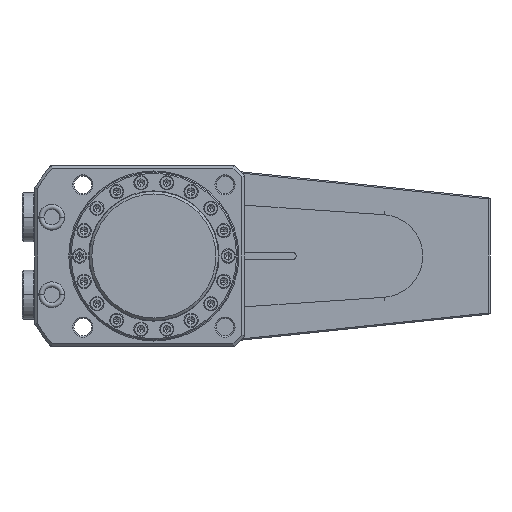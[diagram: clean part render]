
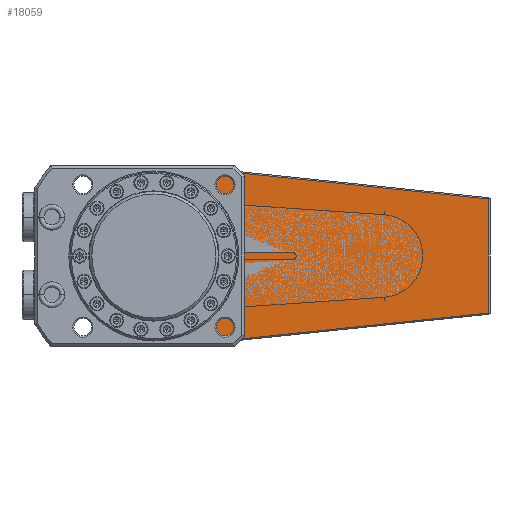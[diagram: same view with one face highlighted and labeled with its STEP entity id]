
A CAD part, front view. The second image highlights one B-rep face of the part: STEP entity #18059.
In plain terms, the highlighted planar face has unit normal (0, -1, 0).
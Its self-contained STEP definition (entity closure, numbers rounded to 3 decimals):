
#13941=DIRECTION('',(1.,0.,0.));
#13942=VECTOR('',#13941,18.844);
#13943=CARTESIAN_POINT('',(-34.5,-14.5,1.5));
#13944=LINE('',#13943,#13942);
#13945=DIRECTION('',(0.,0.,-1.));
#13946=VECTOR('',#13945,19.5);
#13947=CARTESIAN_POINT('',(-34.5,-14.5,21.));
#13948=LINE('',#13947,#13946);
#13949=DIRECTION('',(-0.707,0.,-0.707));
#13950=VECTOR('',#13949,1.414);
#13951=CARTESIAN_POINT('',(-33.5,-14.5,22.));
#13952=LINE('',#13951,#13950);
#13953=DIRECTION('',(-1.,0.,0.));
#13954=VECTOR('',#13953,29.);
#13955=CARTESIAN_POINT('',(-4.5,-14.5,22.));
#13956=LINE('',#13955,#13954);
#13957=DIRECTION('',(0.,0.,-1.));
#13958=VECTOR('',#13957,11.5);
#13959=CARTESIAN_POINT('',(-4.5,-14.5,33.5));
#13960=LINE('',#13959,#13958);
#13961=DIRECTION('',(-1.,0.,0.));
#13962=VECTOR('',#13961,24.474);
#13963=CARTESIAN_POINT('',(19.974,-14.5,33.5));
#13964=LINE('',#13963,#13962);
#13965=DIRECTION('',(-0.995,0.,0.104));
#13966=VECTOR('',#13965,110.123);
#13967=CARTESIAN_POINT('',(129.5,-14.5,22.05));
#13968=LINE('',#13967,#13966);
#13969=DIRECTION('',(0.,0.,1.));
#13970=VECTOR('',#13969,44.099);
#13971=CARTESIAN_POINT('',(129.5,-14.5,-22.05));
#13972=LINE('',#13971,#13970);
#13973=DIRECTION('',(0.995,0.,0.104));
#13974=VECTOR('',#13973,110.123);
#13975=CARTESIAN_POINT('',(19.974,-14.5,-33.5));
#13976=LINE('',#13975,#13974);
#13977=DIRECTION('',(1.,0.,0.));
#13978=VECTOR('',#13977,24.474);
#13979=CARTESIAN_POINT('',(-4.5,-14.5,-33.5));
#13980=LINE('',#13979,#13978);
#13981=DIRECTION('',(0.,0.,-1.));
#13982=VECTOR('',#13981,11.5);
#13983=CARTESIAN_POINT('',(-4.5,-14.5,-22.));
#13984=LINE('',#13983,#13982);
#13985=DIRECTION('',(1.,0.,0.));
#13986=VECTOR('',#13985,29.);
#13987=CARTESIAN_POINT('',(-33.5,-14.5,-22.));
#13988=LINE('',#13987,#13986);
#13989=DIRECTION('',(0.707,0.,-0.707));
#13990=VECTOR('',#13989,1.414);
#13991=CARTESIAN_POINT('',(-34.5,-14.5,-21.));
#13992=LINE('',#13991,#13990);
#13993=DIRECTION('',(0.,0.,-1.));
#13994=VECTOR('',#13993,19.5);
#13995=CARTESIAN_POINT('',(-34.5,-14.5,-1.5));
#13996=LINE('',#13995,#13994);
#13997=DIRECTION('',(1.,0.,0.));
#13998=VECTOR('',#13997,18.844);
#13999=CARTESIAN_POINT('',(-34.5,-14.5,-1.5));
#14000=LINE('',#13999,#13998);
#14006=CARTESIAN_POINT('',(0.,-14.5,0.));
#14007=DIRECTION('',(0.,1.,0.));
#14008=DIRECTION('',(-0.995,0.,0.095));
#14009=AXIS2_PLACEMENT_3D('',#14006,#14007,#14008);
#14113=CARTESIAN_POINT('',(-15.656,-14.5,
-1.5));
#14293=CARTESIAN_POINT('',(-15.656,-14.5,
1.5));
#17675=CARTESIAN_POINT('',(-33.5,-14.5,22.));
#17677=VERTEX_POINT('',#17675);
#17681=CARTESIAN_POINT('',(-4.5,-14.5,22.));
#17682=VERTEX_POINT('',#17681);
#17687=CARTESIAN_POINT('',(129.5,-14.5,-22.05));
#17688=CARTESIAN_POINT('',(129.5,-14.5,22.05));
#17689=VERTEX_POINT('',#17687);
#17690=VERTEX_POINT('',#17688);
#17700=CARTESIAN_POINT('',(-33.5,-14.5,-22.));
#17702=VERTEX_POINT('',#17700);
#17703=CARTESIAN_POINT('',(-4.5,-14.5,-22.));
#17704=VERTEX_POINT('',#17703);
#17723=CARTESIAN_POINT('',(-34.5,-14.5,-21.));
#17725=VERTEX_POINT('',#17723);
#17729=CARTESIAN_POINT('',(-34.5,-14.5,-1.5));
#17730=VERTEX_POINT('',#17729);
#17731=CARTESIAN_POINT('',(-34.5,-14.5,1.5));
#17733=VERTEX_POINT('',#17731);
#17737=CARTESIAN_POINT('',(-34.5,-14.5,21.));
#17738=VERTEX_POINT('',#17737);
#17740=VERTEX_POINT('',#14293);
#17741=VERTEX_POINT('',#14113);
#17787=CARTESIAN_POINT('',(-4.5,-14.5,-33.5));
#17788=VERTEX_POINT('',#17787);
#17789=CARTESIAN_POINT('',(19.974,-14.5,-33.5));
#17790=VERTEX_POINT('',#17789);
#17815=CARTESIAN_POINT('',(19.974,-14.5,33.5));
#17816=VERTEX_POINT('',#17815);
#17817=CARTESIAN_POINT('',(-4.5,-14.5,33.5));
#17818=VERTEX_POINT('',#17817);
#18020=CARTESIAN_POINT('',(0.,-14.5,0.));
#18021=DIRECTION('',(0.,1.,0.));
#18022=DIRECTION('',(1.,0.,0.));
#18023=AXIS2_PLACEMENT_3D('',#18020,#18021,#18022);
#18024=PLANE('',#18023);
#18026=ORIENTED_EDGE('',*,*,#18025,.F.);
#18028=ORIENTED_EDGE('',*,*,#18027,.F.);
#18030=ORIENTED_EDGE('',*,*,#18029,.F.);
#18032=ORIENTED_EDGE('',*,*,#18031,.F.);
#18034=ORIENTED_EDGE('',*,*,#18033,.F.);
#18036=ORIENTED_EDGE('',*,*,#18035,.F.);
#18038=ORIENTED_EDGE('',*,*,#18037,.F.);
#18040=ORIENTED_EDGE('',*,*,#18039,.F.);
#18042=ORIENTED_EDGE('',*,*,#18041,.F.);
#18044=ORIENTED_EDGE('',*,*,#18043,.F.);
#18046=ORIENTED_EDGE('',*,*,#18045,.F.);
#18048=ORIENTED_EDGE('',*,*,#18047,.F.);
#18050=ORIENTED_EDGE('',*,*,#18049,.F.);
#18052=ORIENTED_EDGE('',*,*,#18051,.F.);
#18054=ORIENTED_EDGE('',*,*,#18053,.F.);
#18056=ORIENTED_EDGE('',*,*,#18055,.T.);
#18057=EDGE_LOOP('',(#18026,#18028,#18030,#18032,#18034,#18036,#18038,#18040,
#18042,#18044,#18046,#18048,#18050,#18052,#18054,#18056));
#18058=FACE_OUTER_BOUND('',#18057,.F.);
#18059=ADVANCED_FACE('',(#18058),#18024,.F.);
#14010=CIRCLE('',#14009,15.728);
#18025=EDGE_CURVE('',#17740,#17741,#14010,.T.);
#18027=EDGE_CURVE('',#17733,#17740,#13944,.T.);
#18029=EDGE_CURVE('',#17738,#17733,#13948,.T.);
#18031=EDGE_CURVE('',#17677,#17738,#13952,.T.);
#18033=EDGE_CURVE('',#17682,#17677,#13956,.T.);
#18035=EDGE_CURVE('',#17818,#17682,#13960,.T.);
#18037=EDGE_CURVE('',#17816,#17818,#13964,.T.);
#18039=EDGE_CURVE('',#17690,#17816,#13968,.T.);
#18041=EDGE_CURVE('',#17689,#17690,#13972,.T.);
#18043=EDGE_CURVE('',#17790,#17689,#13976,.T.);
#18045=EDGE_CURVE('',#17788,#17790,#13980,.T.);
#18047=EDGE_CURVE('',#17704,#17788,#13984,.T.);
#18049=EDGE_CURVE('',#17702,#17704,#13988,.T.);
#18051=EDGE_CURVE('',#17725,#17702,#13992,.T.);
#18053=EDGE_CURVE('',#17730,#17725,#13996,.T.);
#18055=EDGE_CURVE('',#17730,#17741,#14000,.T.);
